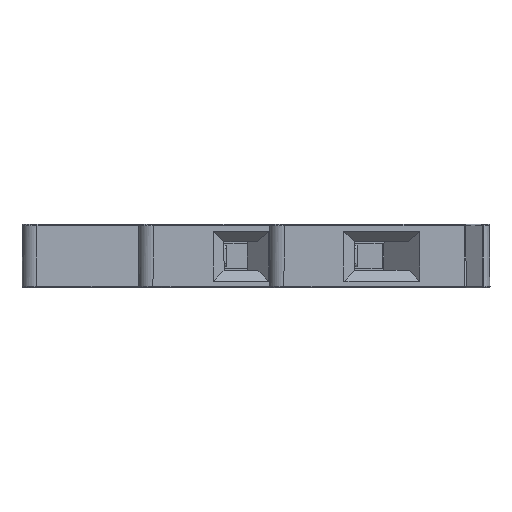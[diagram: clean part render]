
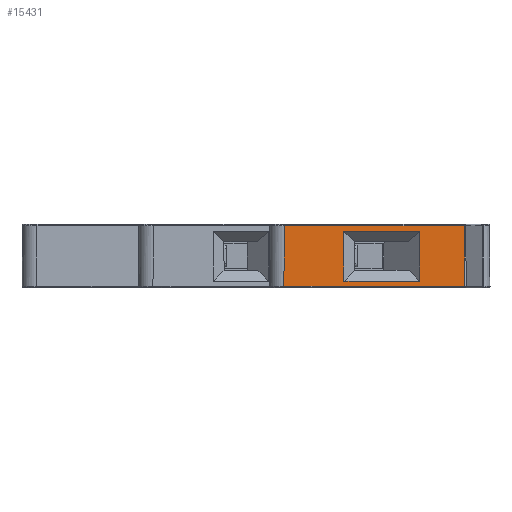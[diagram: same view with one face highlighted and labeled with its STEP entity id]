
A CAD part, left-side view. The second image highlights one B-rep face of the part: STEP entity #15431.
In plain terms, the highlighted planar face has unit normal (-1, 0, 0.009).
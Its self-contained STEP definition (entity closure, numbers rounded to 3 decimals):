
#2377 = CARTESIAN_POINT ( 'NONE',  ( -44.932, 15.216, 7.8 ) ) ;
#2378 = CARTESIAN_POINT ( 'NONE',  ( -44.925, 23.425, 8.602 ) ) ;
#2379 = CARTESIAN_POINT ( 'NONE',  ( -44.992, 15.191, 0.908 ) ) ;
#2382 = CARTESIAN_POINT ( 'NONE',  ( -44.992, 4.709, 0.908 ) ) ;
#4893 = CARTESIAN_POINT ( 'NONE',  ( -44.998, -1.51, 0.202 ) ) ;
#4897 = CARTESIAN_POINT ( 'NONE',  ( -44.932, 4.684, 7.8 ) ) ;
#5599 = VECTOR ( 'NONE', #14915, 1000. ) ;
#5601 = VECTOR ( 'NONE', #14910, 1000. ) ;
#9465 = VERTEX_POINT ( 'NONE', #12972 ) ;
#10517 = FACE_OUTER_BOUND ( 'NONE', #37283, .T. ) ;
#10533 = FACE_BOUND ( 'NONE', #37279, .T. ) ;
#10535 = PLANE ( 'NONE',  #32710 ) ;
#10544 = CARTESIAN_POINT ( 'NONE',  ( -44.998, 2.001, 0.201 ) ) ;
#10545 = DIRECTION ( 'NONE',  ( -1., 0., 0.009 ) ) ;
#10546 = DIRECTION ( 'NONE',  ( 0.009, 0., 1. ) ) ;
#12358 = ORIENTED_EDGE ( 'NONE', *, *, #19468, .F. ) ;
#12359 = ORIENTED_EDGE ( 'NONE', *, *, #19464, .F. ) ;
#12360 = ORIENTED_EDGE ( 'NONE', *, *, #21782, .T. ) ;
#12361 = ORIENTED_EDGE ( 'NONE', *, *, #21772, .T. ) ;
#12362 = ORIENTED_EDGE ( 'NONE', *, *, #21794, .T. ) ;
#12363 = ORIENTED_EDGE ( 'NONE', *, *, #21792, .T. ) ;
#12364 = ORIENTED_EDGE ( 'NONE', *, *, #21805, .T. ) ;
#12365 = ORIENTED_EDGE ( 'NONE', *, *, #21803, .T. ) ;
#12972 = CARTESIAN_POINT ( 'NONE',  ( -44.998, 23.498, 0.202 ) ) ;
#14882 = LINE ( 'NONE', #14914, #5599 ) ;
#14907 = LINE ( 'NONE', #14909, #5601 ) ;
#14909 = CARTESIAN_POINT ( 'NONE',  ( -44.998, 23.499, 0.176 ) ) ;
#14910 = DIRECTION ( 'NONE',  ( 0.009, -0.009, 1. ) ) ;
#14914 = CARTESIAN_POINT ( 'NONE',  ( -44.998, 23.499, 0.202 ) ) ;
#14915 = DIRECTION ( 'NONE',  ( 0., 1., 0. ) ) ;
#15431 = ADVANCED_FACE ( 'NONE', ( #10533, #10517 ), #10535, .T. ) ;
#16996 = B_SPLINE_CURVE_WITH_KNOTS ( 'NONE', 3,
 ( #34116, #34142, #34159, #34160 ),
 .UNSPECIFIED., .F., .F.,
 ( 4, 4 ),
 ( 0., 1. ),
 .UNSPECIFIED. ) ;
#19464 = EDGE_CURVE ( 'NONE', #9465, #22717, #14907, .T. ) ;
#19468 = EDGE_CURVE ( 'NONE', #22707, #9465, #14882, .T. ) ;
#21772 = EDGE_CURVE ( 'NONE', #22707, #31595, #16996, .T. ) ;
#21782 = EDGE_CURVE ( 'NONE', #31595, #22717, #34193, .T. ) ;
#21792 = EDGE_CURVE ( 'NONE', #22718, #22716, #34206, .T. ) ;
#21794 = EDGE_CURVE ( 'NONE', #22716, #22709, #34195, .T. ) ;
#21803 = EDGE_CURVE ( 'NONE', #22709, #22721, #34218, .T. ) ;
#21805 = EDGE_CURVE ( 'NONE', #22721, #22718, #34221, .T. ) ;
#22707 = VERTEX_POINT ( 'NONE', #4893 ) ;
#22709 = VERTEX_POINT ( 'NONE', #4897 ) ;
#22716 = VERTEX_POINT ( 'NONE', #2377 ) ;
#22717 = VERTEX_POINT ( 'NONE', #2378 ) ;
#22718 = VERTEX_POINT ( 'NONE', #2379 ) ;
#22721 = VERTEX_POINT ( 'NONE', #2382 ) ;
#30370 = VECTOR ( 'NONE', #34199, 1000. ) ;
#30371 = VECTOR ( 'NONE', #34211, 1000. ) ;
#30375 = VECTOR ( 'NONE', #34209, 1000. ) ;
#30379 = VECTOR ( 'NONE', #34220, 1000. ) ;
#30380 = VECTOR ( 'NONE', #34223, 1000. ) ;
#31595 = VERTEX_POINT ( 'NONE', #36031 ) ;
#32710 = AXIS2_PLACEMENT_3D ( 'NONE', #10544, #10545, #10546 ) ;
#34116 = CARTESIAN_POINT ( 'NONE',  ( -44.998, -1.51, 0.202 ) ) ;
#34142 = CARTESIAN_POINT ( 'NONE',  ( -44.974, -1.489, 3.002 ) ) ;
#34158 = CARTESIAN_POINT ( 'NONE',  ( -44.925, 2.001, 8.602 ) ) ;
#34159 = CARTESIAN_POINT ( 'NONE',  ( -44.949, -1.468, 5.802 ) ) ;
#34160 = CARTESIAN_POINT ( 'NONE',  ( -44.925, -1.447, 8.602 ) ) ;
#34193 = LINE ( 'NONE', #34158, #30370 ) ;
#34195 = LINE ( 'NONE', #34210, #30371 ) ;
#34199 = DIRECTION ( 'NONE',  ( 0., 1., 0. ) ) ;
#34206 = LINE ( 'NONE', #34208, #30375 ) ;
#34208 = CARTESIAN_POINT ( 'NONE',  ( -44.992, 15.191, 0.908 ) ) ;
#34209 = DIRECTION ( 'NONE',  ( 0.009, 0.004, 1. ) ) ;
#34210 = CARTESIAN_POINT ( 'NONE',  ( -44.932, 2.001, 7.8 ) ) ;
#34211 = DIRECTION ( 'NONE',  ( 0., -1., 0. ) ) ;
#34218 = LINE ( 'NONE', #34219, #30379 ) ;
#34219 = CARTESIAN_POINT ( 'NONE',  ( -44.932, 4.684, 7.8 ) ) ;
#34220 = DIRECTION ( 'NONE',  ( -0.009, 0.004, -1. ) ) ;
#34221 = LINE ( 'NONE', #34222, #30380 ) ;
#34222 = CARTESIAN_POINT ( 'NONE',  ( -44.992, 2.001, 0.908 ) ) ;
#34223 = DIRECTION ( 'NONE',  ( 0., 1., 0. ) ) ;
#36031 = CARTESIAN_POINT ( 'NONE',  ( -44.925, -1.447, 8.602 ) ) ;
#37279 = EDGE_LOOP ( 'NONE', ( #12365, #12364, #12363, #12362 ) ) ;
#37283 = EDGE_LOOP ( 'NONE', ( #12361, #12360, #12359, #12358 ) ) ;
